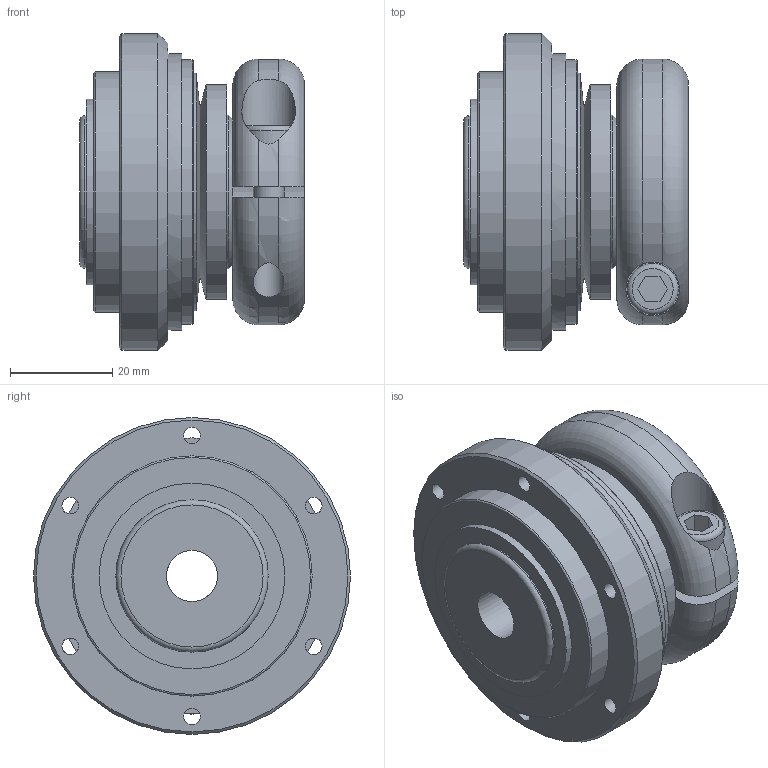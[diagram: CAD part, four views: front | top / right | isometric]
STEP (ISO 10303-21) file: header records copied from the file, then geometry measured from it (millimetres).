
FILE_DESCRIPTION(/* description */ ('Unknown'),/* implementation_level */ '2;1');
FILE_NAME(/* name */ 'SKVA-K 12',/* time_stamp */ '2025-02-12T11:52:30+01:00',/* author */ ('Unknown'),/* organization */ ('Unknown'),/* preprocessor_version */ 'ST-DEVELOPER v18.102',/* originating_system */ 'Solid Edge',/* authorisation */ 'Unknown');
FILE_SCHEMA (('AUTOMOTIVE_DESIGN {1 0 10303 214 3 1 1}'));
Length unit declared in the file: millimetre
Products named in the file (1): SKVA-K  12
Bounding box: 44 x 62 x 62 mm (x, y, z)
Volume: 82547.4 mm3; surface area: 18677.1 mm2
Topology: 1 solids, 1 shells, 68 faces, 173 edges, 107 vertices
Faces by surface type: plane 33, cylinder 20, cone 10, torus 5
Full cylindrical faces by diameter (mm): 3.242 x6, 6 x2, 10 x2, 10.5 x1, 30 x1, 36.321 x1, 42 x1, 51.7 x1, 54 x1, 62 x1
Entity records: 2377 total; most frequent: CARTESIAN_POINT 380, DIRECTION 334, ORIENTED_EDGE 260, AXIS2_PLACEMENT_3D 153, EDGE_CURVE 130, EDGE_LOOP 114, FACE_BOUND 114, VERTEX_POINT 94
